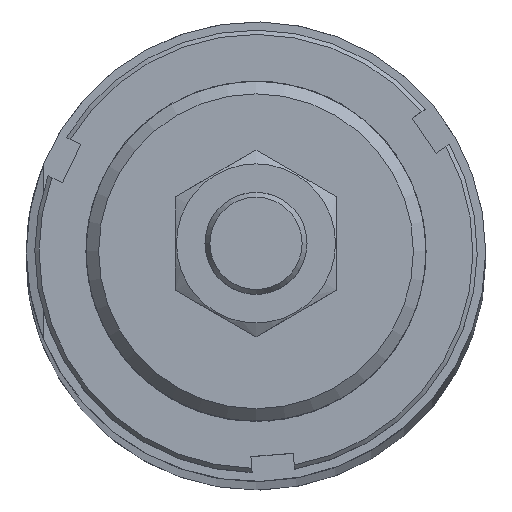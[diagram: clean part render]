
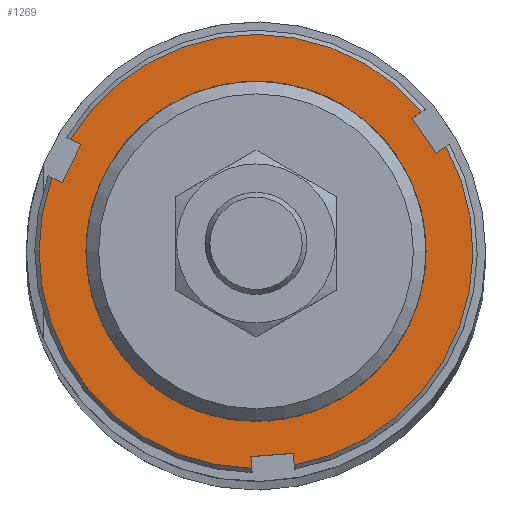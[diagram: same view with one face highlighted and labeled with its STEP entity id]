
A CAD part, top view. The second image highlights one B-rep face of the part: STEP entity #1269.
In plain terms, the highlighted planar face has unit normal (0, 0, 1).
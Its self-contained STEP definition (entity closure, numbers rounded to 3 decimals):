
#103=LINE('',#2143,#159);
#107=LINE('',#2154,#163);
#109=LINE('',#2167,#165);
#113=LINE('',#2180,#169);
#117=LINE('',#2191,#173);
#119=LINE('',#2204,#175);
#124=LINE('',#2233,#180);
#125=LINE('',#2235,#181);
#126=LINE('',#2237,#182);
#159=VECTOR('',#1731,1.377);
#163=VECTOR('',#1737,5.);
#165=VECTOR('',#1741,1.377);
#169=VECTOR('',#1747,1.377);
#173=VECTOR('',#1753,5.);
#175=VECTOR('',#1757,1.377);
#180=VECTOR('',#1786,1.377);
#181=VECTOR('',#1787,5.);
#182=VECTOR('',#1788,1.377);
#262=PLANE('',#1428);
#317=FACE_BOUND('',#512,.T.);
#318=FACE_BOUND('',#513,.T.);
#512=EDGE_LOOP('',(#1115));
#513=EDGE_LOOP('',(#1116,#1117,#1118,#1119,#1120,#1121,#1122,#1123,#1124,
#1125,#1126,#1127));
#584=CIRCLE('',#1429,20.);
#585=CIRCLE('',#1430,25.5);
#586=CIRCLE('',#1431,25.5);
#587=CIRCLE('',#1432,25.5);
#674=VERTEX_POINT('',#2140);
#675=VERTEX_POINT('',#2142);
#678=VERTEX_POINT('',#2152);
#682=VERTEX_POINT('',#2163);
#686=VERTEX_POINT('',#2177);
#687=VERTEX_POINT('',#2179);
#690=VERTEX_POINT('',#2189);
#694=VERTEX_POINT('',#2200);
#701=VERTEX_POINT('',#2228);
#702=VERTEX_POINT('',#2230);
#703=VERTEX_POINT('',#2232);
#704=VERTEX_POINT('',#2234);
#705=VERTEX_POINT('',#2236);
#811=EDGE_CURVE('',#675,#674,#103,.T.);
#816=EDGE_CURVE('',#674,#678,#107,.T.);
#820=EDGE_CURVE('',#678,#682,#109,.T.);
#825=EDGE_CURVE('',#687,#686,#113,.T.);
#830=EDGE_CURVE('',#686,#690,#117,.T.);
#834=EDGE_CURVE('',#690,#694,#119,.T.);
#846=EDGE_CURVE('',#701,#701,#584,.T.);
#847=EDGE_CURVE('',#702,#682,#585,.T.);
#848=EDGE_CURVE('',#702,#703,#124,.T.);
#849=EDGE_CURVE('',#703,#704,#125,.T.);
#850=EDGE_CURVE('',#704,#705,#126,.T.);
#851=EDGE_CURVE('',#687,#705,#586,.T.);
#852=EDGE_CURVE('',#675,#694,#587,.T.);
#1115=ORIENTED_EDGE('',*,*,#846,.T.);
#1116=ORIENTED_EDGE('',*,*,#811,.T.);
#1117=ORIENTED_EDGE('',*,*,#816,.T.);
#1118=ORIENTED_EDGE('',*,*,#820,.T.);
#1119=ORIENTED_EDGE('',*,*,#847,.F.);
#1120=ORIENTED_EDGE('',*,*,#848,.T.);
#1121=ORIENTED_EDGE('',*,*,#849,.T.);
#1122=ORIENTED_EDGE('',*,*,#850,.T.);
#1123=ORIENTED_EDGE('',*,*,#851,.F.);
#1124=ORIENTED_EDGE('',*,*,#825,.T.);
#1125=ORIENTED_EDGE('',*,*,#830,.T.);
#1126=ORIENTED_EDGE('',*,*,#834,.T.);
#1127=ORIENTED_EDGE('',*,*,#852,.F.);
#1269=ADVANCED_FACE('',(#317,#318),#262,.T.);
#1428=AXIS2_PLACEMENT_3D('',#2227,#1780,#1781);
#1429=AXIS2_PLACEMENT_3D('',#2229,#1782,#1783);
#1430=AXIS2_PLACEMENT_3D('',#2231,#1784,#1785);
#1431=AXIS2_PLACEMENT_3D('',#2238,#1789,#1790);
#1432=AXIS2_PLACEMENT_3D('',#2239,#1791,#1792);
#1731=DIRECTION('',(0.866,-0.5,0.));
#1737=DIRECTION('',(-0.5,-0.866,0.));
#1741=DIRECTION('',(-0.866,0.5,0.));
#1747=DIRECTION('',(-0.866,-0.5,0.));
#1753=DIRECTION('',(-0.5,0.866,0.));
#1757=DIRECTION('',(0.866,0.5,0.));
#1780=DIRECTION('center_axis',(0.,0.,1.));
#1781=DIRECTION('ref_axis',(1.,0.,0.));
#1782=DIRECTION('center_axis',(0.,0.,-1.));
#1783=DIRECTION('ref_axis',(-1.,0.,0.));
#1784=DIRECTION('center_axis',(0.,0.,-1.));
#1785=DIRECTION('ref_axis',(-1.,0.,0.));
#1786=DIRECTION('',(0.,1.,0.));
#1787=DIRECTION('',(1.,0.,0.));
#1788=DIRECTION('',(0.,-1.,0.));
#1789=DIRECTION('center_axis',(0.,0.,-1.));
#1790=DIRECTION('ref_axis',(-1.,0.,0.));
#1791=DIRECTION('center_axis',(0.,0.,-1.));
#1792=DIRECTION('ref_axis',(-1.,0.,0.));
#2140=CARTESIAN_POINT('',(-19.535,14.165,9.));
#2142=CARTESIAN_POINT('',(-20.727,14.854,9.));
#2143=CARTESIAN_POINT('',(-3.758,5.056,9.));
#2152=CARTESIAN_POINT('',(-22.035,9.835,9.));
#2154=CARTESIAN_POINT('',(-26.794,1.591,9.));
#2163=CARTESIAN_POINT('',(-23.227,10.524,9.));
#2167=CARTESIAN_POINT('',(-7.072,1.196,9.));
#2177=CARTESIAN_POINT('',(22.035,9.835,9.));
#2179=CARTESIAN_POINT('',(23.227,10.524,9.));
#2180=CARTESIAN_POINT('',(6.258,0.726,9.));
#2189=CARTESIAN_POINT('',(19.535,14.165,9.));
#2191=CARTESIAN_POINT('',(25.544,3.756,9.));
#2200=CARTESIAN_POINT('',(20.727,14.854,9.));
#2204=CARTESIAN_POINT('',(4.572,5.526,9.));
#2227=CARTESIAN_POINT('Origin',(0.,-24.87,
9.));
#2228=CARTESIAN_POINT('',(20.,0.,9.));
#2229=CARTESIAN_POINT('Origin',(0.,0.,9.));
#2230=CARTESIAN_POINT('',(-2.5,-25.377,9.));
#2231=CARTESIAN_POINT('Origin',(0.,0.,9.));
#2232=CARTESIAN_POINT('',(-2.5,-24.,9.));
#2233=CARTESIAN_POINT('',(-2.5,-24.435,9.));
#2234=CARTESIAN_POINT('',(2.5,-24.,9.));
#2235=CARTESIAN_POINT('',(1.25,-24.,9.));
#2236=CARTESIAN_POINT('',(2.5,-25.377,9.));
#2237=CARTESIAN_POINT('',(2.5,-25.375,9.));
#2238=CARTESIAN_POINT('Origin',(0.,0.,9.));
#2239=CARTESIAN_POINT('Origin',(0.,0.,9.));
